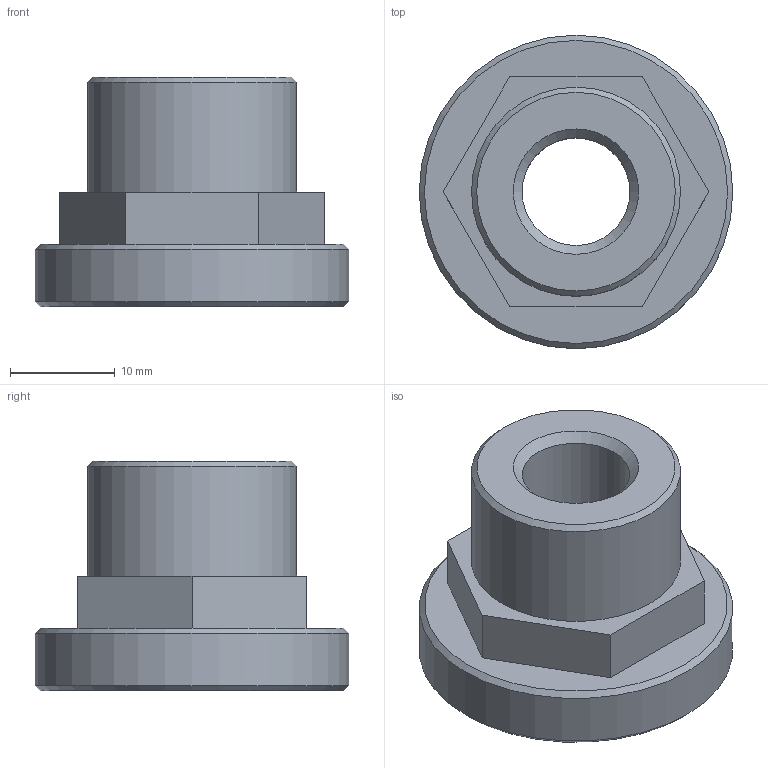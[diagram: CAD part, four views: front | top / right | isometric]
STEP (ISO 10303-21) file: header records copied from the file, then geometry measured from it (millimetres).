
FILE_DESCRIPTION(/* description */ (''),/* implementation_level */ '2;1');
FILE_NAME(/* name */ 'TRAYLOADER.76.stp',/* time_stamp */ '2025-05-12T16:08:31+02:00',/* author */ (''),/* organization */ (''),/* preprocessor_version */ 'ST-DEVELOPER v19.4',/* originating_system */ 'SIEMENS PLM Software NX2306.5001',/* authorisation */ '');
FILE_SCHEMA (('AP203_CONFIGURATION_CONTROLLED_3D_DESIGN_OF_MECHANICAL_PARTS_AND_ASSEMBLIES_MIM_LF { 1 0 10303 403 2 1 2}'));
Length unit declared in the file: millimetre
Products named in the file (1): TRAYLOADER.76_objects
Bounding box: 30 x 30 x 22 mm (x, y, z)
Volume: 7903.9 mm3; surface area: 3491.7 mm2
Topology: 1 solids, 1 shells, 18 faces, 39 edges, 25 vertices
Faces by surface type: plane 10, cone 5, cylinder 3
Full cylindrical faces by diameter (mm): 10.3 x1, 20 x1, 30 x1
Entity records: 522 total; most frequent: DIRECTION 78, CARTESIAN_POINT 71, ORIENTED_EDGE 58, EDGE_LOOP 30, AXIS2_PLACEMENT_3D 30, EDGE_CURVE 29, FACE_BOUND 24, VERTEX_POINT 23
